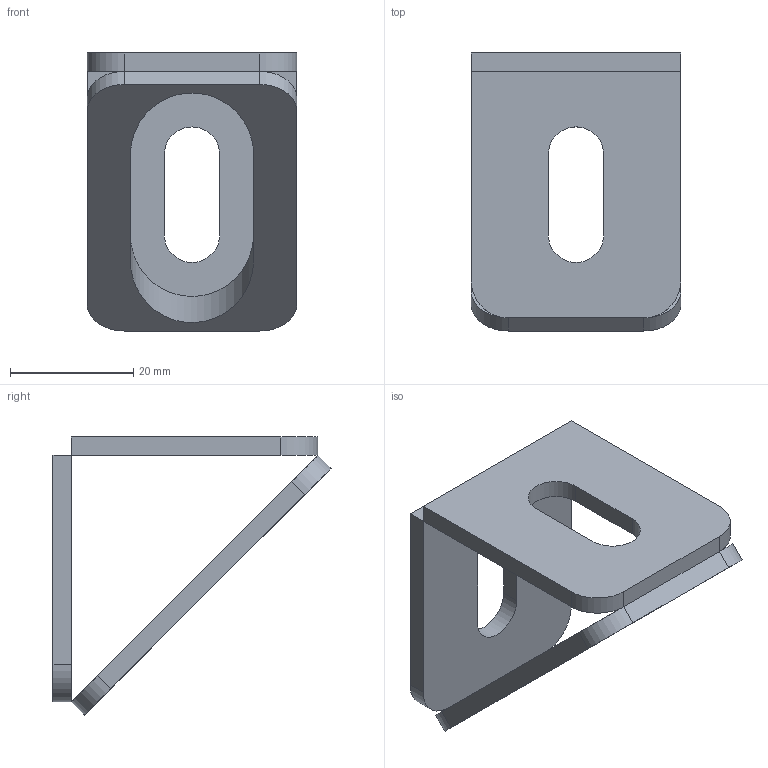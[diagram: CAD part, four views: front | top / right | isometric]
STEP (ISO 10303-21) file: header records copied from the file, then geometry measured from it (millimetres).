
FILE_DESCRIPTION (( 'STEP AP214' ), '1' );
FILE_NAME ('8202-2s.STEP', '2017-10-26T12:37:08', ( '' ), ( '' ), 'SwSTEP 2.0', 'SolidWorks 2014', '' );
FILE_SCHEMA (( 'AUTOMOTIVE_DESIGN' ));
Length unit declared in the file: millimetre
Products named in the file (6): 8201 - 2; 8201 - 1; 8202-2s
Assembly tree (3 placements, depth 2):
  8201 - 2
  8201 - 1
  8201 - 1
  8202-2s
    8201 - 1  x2
    8201 - 2
Bounding box: 34 x 45.12 x 45.12 mm (x, y, z)
Volume: 10045 mm3; surface area: 8786.8 mm2
Topology: 3 solids, 3 shells, 39 faces, 99 edges, 66 vertices
Faces by surface type: plane 24, cylinder 15
Entity records: 982 total; most frequent: CARTESIAN_POINT 167, DIRECTION 147, ORIENTED_EDGE 138, EDGE_CURVE 69, AXIS2_PLACEMENT_3D 50, LINE 47, VECTOR 47, VERTEX_POINT 46
